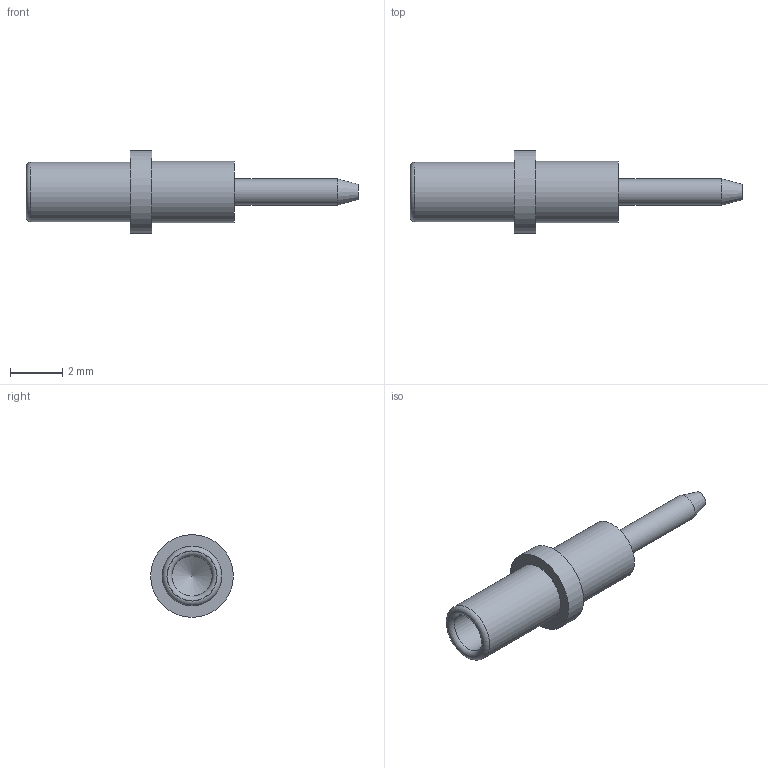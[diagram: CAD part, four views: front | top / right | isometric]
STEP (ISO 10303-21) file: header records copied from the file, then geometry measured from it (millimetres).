
FILE_DESCRIPTION(/* description */ (''),/* implementation_level */ '2;1');
FILE_NAME(/* name */ '\\Snap1\dwgs\Customer 3D Models\450\450-3310-03 Customer model.stp',/* time_stamp */ '2016-12-13T17:27:42+00:00',/* author */ ('paulk'),/* organization */ (''),/* preprocessor_version */ 'ST-DEVELOPER v15.2',/* originating_system */ 'Autodesk Inventor 2014',/* authorisation */ '');
FILE_SCHEMA (('CONFIG_CONTROL_DESIGN'));
Length unit declared in the file: millimetre
Products named in the file (1): 450-3310-03 Customer model
Bounding box: 12.75 x 3.17 x 3.17 mm (x, y, z)
Volume: 29.4 mm3; surface area: 118.2 mm2
Topology: 1 solids, 1 shells, 14 faces, 24 edges, 14 vertices
Faces by surface type: cylinder 5, plane 4, cone 3, torus 2
Full cylindrical faces by diameter (mm): 1.016 x1, 1.55 x1, 2.286 x1, 2.362 x1, 3.175 x1
Entity records: 295 total; most frequent: DIRECTION 56, CARTESIAN_POINT 41, AXIS2_PLACEMENT_3D 28, EDGE_LOOP 26, ORIENTED_EDGE 26, ADVANCED_FACE 14, FACE_BOUND 13, FACE_OUTER_BOUND 13
